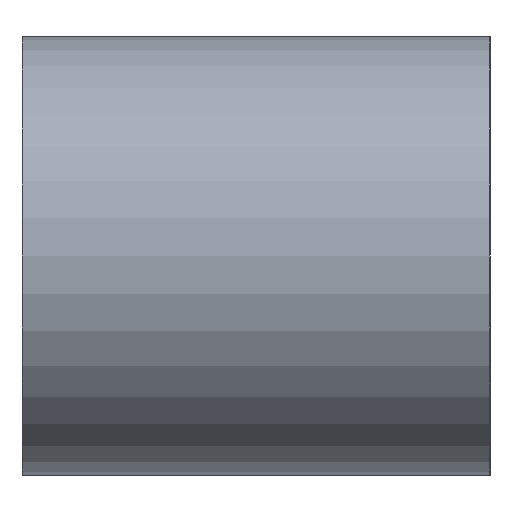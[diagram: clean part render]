
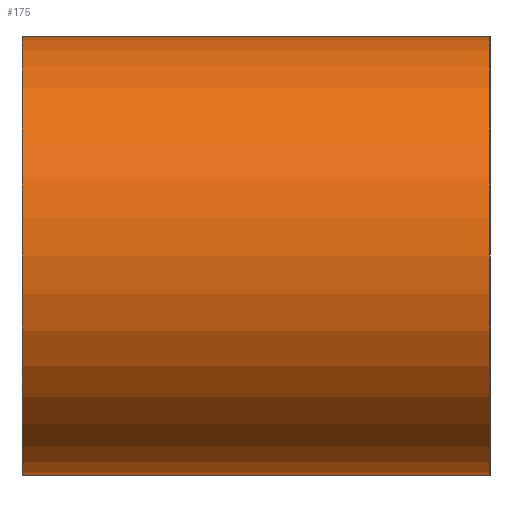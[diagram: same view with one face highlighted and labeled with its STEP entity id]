
A CAD part, left-side view. The second image highlights one B-rep face of the part: STEP entity #175.
In plain terms, the highlighted cylindrical face has radius 7.747 mm (diameter 15.494 mm), a partial arc.
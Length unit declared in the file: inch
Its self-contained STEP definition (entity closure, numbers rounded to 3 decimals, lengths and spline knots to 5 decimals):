
#2 = DIRECTION ( 'NONE',  ( 0., -1., 0. ) ) ;
#8 = EDGE_CURVE ( 'NONE', #134, #198, #425, .T. ) ;
#15 = CIRCLE ( 'NONE', #52, 0.305 ) ;
#18 = CARTESIAN_POINT ( 'NONE',  ( -0.5735, 0.55, 0.305 ) ) ;
#52 = AXIS2_PLACEMENT_3D ( 'NONE', #490, #404, #325 ) ;
#53 = CYLINDRICAL_SURFACE ( 'NONE', #292, 0.305 ) ;
#87 = EDGE_CURVE ( 'NONE', #306, #134, #384, .T. ) ;
#88 = CARTESIAN_POINT ( 'NONE',  ( -0.5735, -0.1, -0.305 ) ) ;
#95 = LINE ( 'NONE', #166, #181 ) ;
#116 = CARTESIAN_POINT ( 'NONE',  ( -0.5735, -0.1, 0. ) ) ;
#124 = DIRECTION ( 'NONE',  ( 0., -1., 0. ) ) ;
#134 = VERTEX_POINT ( 'NONE', #305 ) ;
#159 = CARTESIAN_POINT ( 'NONE',  ( -0.5735, 0.55, 0. ) ) ;
#166 = CARTESIAN_POINT ( 'NONE',  ( -0.5735, 0.55, -0.305 ) ) ;
#175 = ADVANCED_FACE ( 'NONE', ( #193 ), #53, .T. ) ;
#181 = VECTOR ( 'NONE', #245, 39.37008 ) ;
#185 = ORIENTED_EDGE ( 'NONE', *, *, #453, .F. ) ;
#193 = FACE_OUTER_BOUND ( 'NONE', #358, .T. ) ;
#198 = VERTEX_POINT ( 'NONE', #88 ) ;
#245 = DIRECTION ( 'NONE',  ( 0., -1., 0. ) ) ;
#254 = VERTEX_POINT ( 'NONE', #389 ) ;
#273 = DIRECTION ( 'NONE',  ( 0., 0., -1. ) ) ;
#292 = AXIS2_PLACEMENT_3D ( 'NONE', #159, #124, #273 ) ;
#294 = EDGE_CURVE ( 'NONE', #254, #198, #95, .T. ) ;
#305 = CARTESIAN_POINT ( 'NONE',  ( -0.5735, -0.1, 0.305 ) ) ;
#306 = VERTEX_POINT ( 'NONE', #430 ) ;
#325 = DIRECTION ( 'NONE',  ( 1., 0., 0. ) ) ;
#341 = DIRECTION ( 'NONE',  ( 0., 0., -1. ) ) ;
#358 = EDGE_LOOP ( 'NONE', ( #414, #452, #435, #185 ) ) ;
#384 = LINE ( 'NONE', #18, #399 ) ;
#389 = CARTESIAN_POINT ( 'NONE',  ( -0.5735, 0.55, -0.305 ) ) ;
#399 = VECTOR ( 'NONE', #428, 39.37008 ) ;
#404 = DIRECTION ( 'NONE',  ( 0., 1., 0. ) ) ;
#414 = ORIENTED_EDGE ( 'NONE', *, *, #294, .T. ) ;
#425 = CIRCLE ( 'NONE', #459, 0.305 ) ;
#428 = DIRECTION ( 'NONE',  ( 0., -1., 0. ) ) ;
#430 = CARTESIAN_POINT ( 'NONE',  ( -0.5735, 0.55, 0.305 ) ) ;
#435 = ORIENTED_EDGE ( 'NONE', *, *, #87, .F. ) ;
#452 = ORIENTED_EDGE ( 'NONE', *, *, #8, .F. ) ;
#453 = EDGE_CURVE ( 'NONE', #254, #306, #15, .T. ) ;
#459 = AXIS2_PLACEMENT_3D ( 'NONE', #116, #2, #341 ) ;
#490 = CARTESIAN_POINT ( 'NONE',  ( -0.5735, 0.55, 0. ) ) ;
